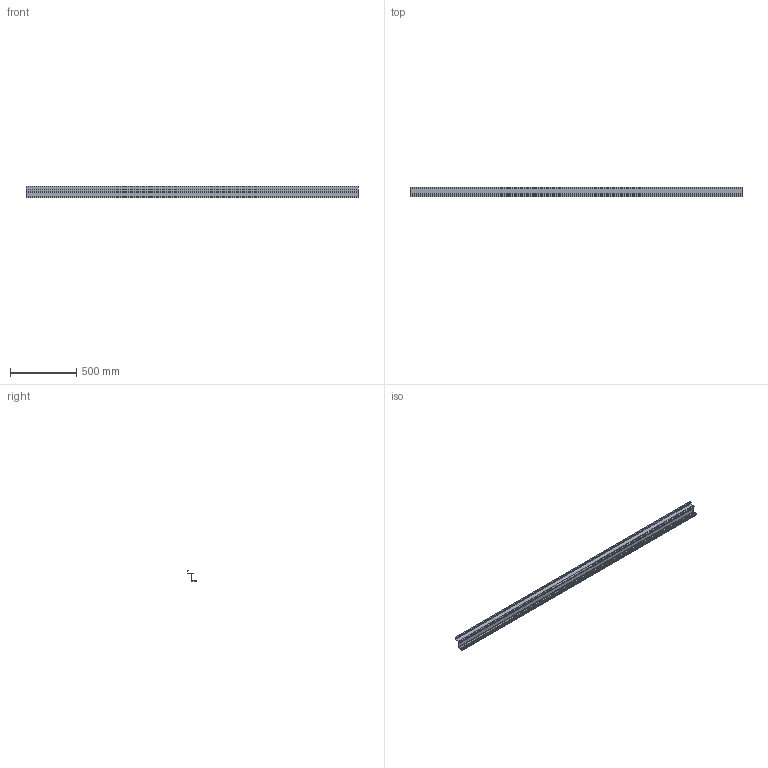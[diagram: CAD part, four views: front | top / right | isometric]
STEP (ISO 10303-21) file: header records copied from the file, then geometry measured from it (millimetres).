
FILE_DESCRIPTION(('STEP AP242'),'1');
FILE_NAME('OPO_51.047.61.stp','2026-02-23T17:25:44',(' '),(' '),'Spatial InterOp 3D',' ',' ');
FILE_SCHEMA(('AP242_MANAGED_MODEL_BASED_3D_ENGINEERING_MIM_LF {1 0 10303 442 1 1 4}'));
Length unit declared in the file: millimetre
Products named in the file (1): 1
Bounding box: 2500 x 73 x 86 mm (x, y, z)
Volume: 984983.5 mm3; surface area: 1056656.8 mm2
Topology: 1 solids, 1 shells, 102 faces, 286 edges, 190 vertices
Faces by surface type: plane 82, cylinder 20
Entity records: 4086 total; most frequent: CARTESIAN_POINT 579, ORIENTED_EDGE 572, DIRECTION 532, EDGE_CURVE 286, LINE 246, VECTOR 246, VERTEX_POINT 190, AXIS2_PLACEMENT_3D 143
